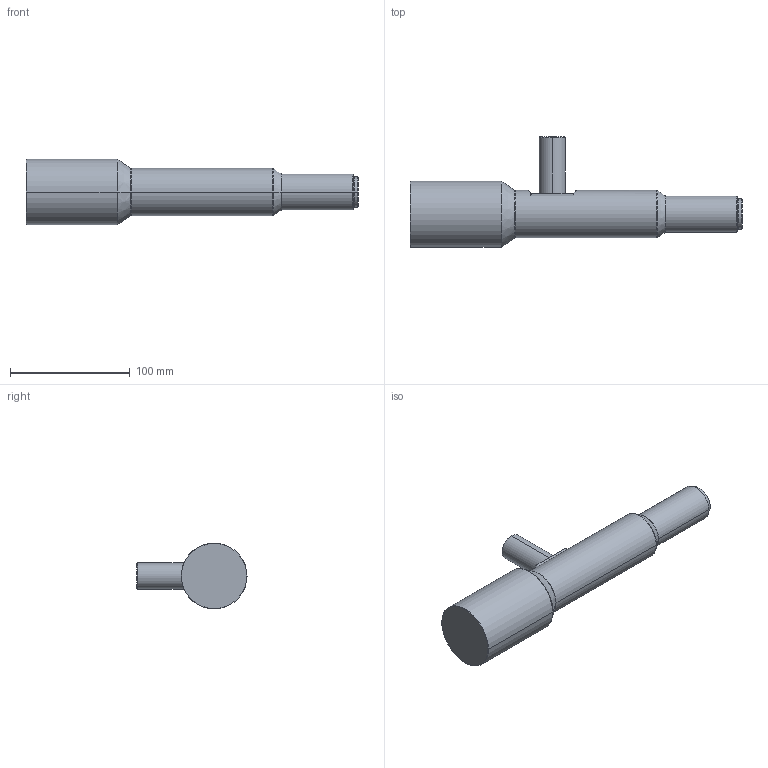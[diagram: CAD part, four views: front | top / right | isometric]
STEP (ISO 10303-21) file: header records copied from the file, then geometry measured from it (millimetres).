
FILE_DESCRIPTION (( 'STEP AP203' ), '1' );
FILE_NAME ('WWH20-300CT-230V2.STEP', '2022-12-13T08:48:42', ( '' ), ( '' ), 'SwSTEP 2.0', 'SolidWorks 2017', '' );
FILE_SCHEMA (( 'CONFIG_CONTROL_DESIGN' ));
Length unit declared in the file: millimetre
Products named in the file (1): WWH20-300CT-230V2
Bounding box: 277.4 x 92 x 55 mm (x, y, z)
Volume: 415866.2 mm3; surface area: 43371.4 mm2
Topology: 1 solids, 1 shells, 50 faces, 107 edges, 62 vertices
Faces by surface type: plane 18, cone 12, cylinder 12, torus 8
Entity records: 1416 total; most frequent: DIRECTION 253, CARTESIAN_POINT 244, ORIENTED_EDGE 214, EDGE_CURVE 107, AXIS2_PLACEMENT_3D 103, VERTEX_POINT 62, EDGE_LOOP 53, CIRCLE 52
